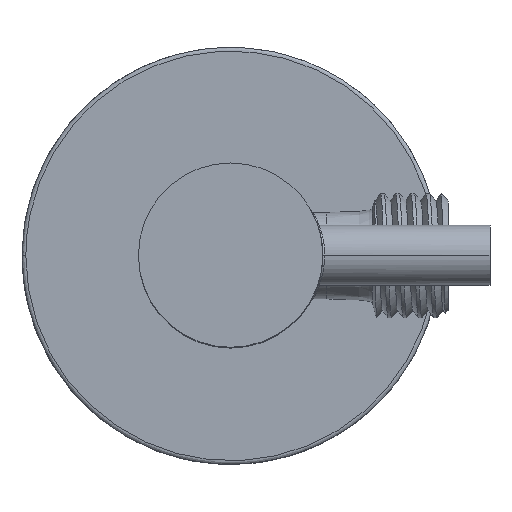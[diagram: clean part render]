
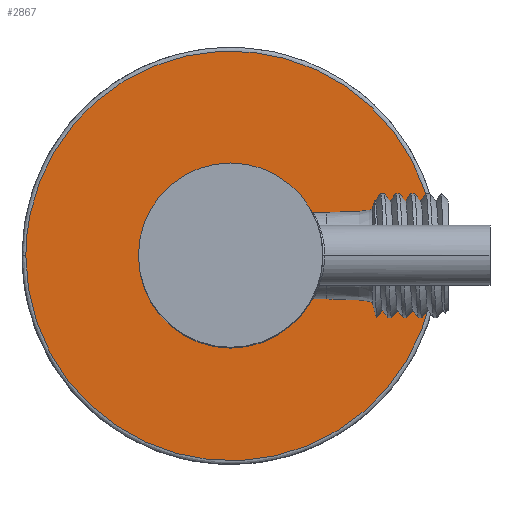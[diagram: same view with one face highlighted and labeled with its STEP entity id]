
A CAD part, top view. The second image highlights one B-rep face of the part: STEP entity #2867.
In plain terms, the highlighted planar face has unit normal (0, 0, 1).
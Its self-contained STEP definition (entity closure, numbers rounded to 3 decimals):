
#81 = AXIS2_PLACEMENT_3D ( 'NONE', #2199, #2487, #1035 ) ;
#137 = PLANE ( 'NONE',  #81 ) ;
#185 = CARTESIAN_POINT ( 'NONE',  ( -7., -26.137, 6. ) ) ;
#200 = CARTESIAN_POINT ( 'NONE',  ( -23.431, -13.532, 6. ) ) ;
#229 = CARTESIAN_POINT ( 'NONE',  ( 17.843, -20.341, 6. ) ) ;
#256 = CARTESIAN_POINT ( 'NONE',  ( 3.535, 26.826, 6. ) ) ;
#276 = ORIENTED_EDGE ( 'NONE', *, *, #2101, .T. ) ;
#417 = CARTESIAN_POINT ( 'NONE',  ( -27., 0., 6. ) ) ;
#450 = CARTESIAN_POINT ( 'NONE',  ( -13.532, -23.431, 6. ) ) ;
#467 = CARTESIAN_POINT ( 'NONE',  ( -8.701, -25.621, 6. ) ) ;
#468 = CARTESIAN_POINT ( 'NONE',  ( 26.137, 7., 6. ) ) ;
#483 = CARTESIAN_POINT ( 'NONE',  ( -26.826, -3.535, 6. ) ) ;
#485 = CARTESIAN_POINT ( 'NONE',  ( 23.431, 13.532, 6. ) ) ;
#498 = CARTESIAN_POINT ( 'NONE',  ( 20.341, -17.843, 6. ) ) ;
#499 = CARTESIAN_POINT ( 'NONE',  ( -3.535, 26.826, 6. ) ) ;
#510 = CARTESIAN_POINT ( 'NONE',  ( -16.469, -21.468, 6. ) ) ;
#535 = FACE_OUTER_BOUND ( 'NONE', #2411, .T. ) ;
#540 = CARTESIAN_POINT ( 'NONE',  ( -7., 26.137, 6. ) ) ;
#623 = B_SPLINE_CURVE_WITH_KNOTS ( 'NONE', 3,
 ( #1324, #1904, #2204, #468, #1702, #1663, #485, #797, #1101, #2260, #2861, #781, #2802, #1076, #1960, #256, #2234, #3103, #499, #540, #3700, #1404, #2533, #2560, #3087, #2273, #1999, #2522, #2846, #2244, #2817, #1947, #3655, #2510 ),
 .UNSPECIFIED., .F., .F.,
 ( 4, 2, 2, 2, 2, 2, 2, 2, 2, 2, 2, 2, 2, 2, 2, 2, 4 ),
 ( 0., 0.031, 0.063, 0.094, 0.125, 0.156, 0.188, 0.219, 0.25, 0.281, 0.312, 0.344, 0.375, 0.406, 0.438, 0.469, 0.5 ),
 .UNSPECIFIED. ) ;
#780 = CARTESIAN_POINT ( 'NONE',  ( -24.269, -11.964, 6. ) ) ;
#781 = CARTESIAN_POINT ( 'NONE',  ( 13.532, 23.431, 6. ) ) ;
#796 = CARTESIAN_POINT ( 'NONE',  ( 27., -1.768, 6. ) ) ;
#797 = CARTESIAN_POINT ( 'NONE',  ( 21.468, 16.469, 6. ) ) ;
#864 = ORIENTED_EDGE ( 'NONE', *, *, #3255, .T. ) ;
#1035 = DIRECTION ( 'NONE',  ( 1., 0., 0. ) ) ;
#1058 = CARTESIAN_POINT ( 'NONE',  ( 7., -26.137, 6. ) ) ;
#1074 = CARTESIAN_POINT ( 'NONE',  ( -26.137, -7., 6. ) ) ;
#1076 = CARTESIAN_POINT ( 'NONE',  ( 8.701, 25.621, 6. ) ) ;
#1091 = CARTESIAN_POINT ( 'NONE',  ( 1.766, -27., 6. ) ) ;
#1101 = CARTESIAN_POINT ( 'NONE',  ( 20.341, 17.843, 6. ) ) ;
#1124 = B_SPLINE_CURVE_WITH_KNOTS ( 'NONE', 3,
 ( #417, #1601, #483, #1074, #1929, #780, #200, #1387, #3361, #3051, #510, #450, #1648, #467, #185, #2203, #1662, #1091, #1675, #1058, #1630, #3064, #3654, #2231, #229, #498, #3684, #2521, #1972, #3626, #1338, #2217, #796, #3333 ),
 .UNSPECIFIED., .F., .F.,
 ( 4, 2, 2, 2, 2, 2, 2, 2, 2, 2, 2, 2, 2, 2, 2, 2, 4 ),
 ( 0.5, 0.531, 0.563, 0.594, 0.625, 0.656, 0.688, 0.719, 0.75, 0.781, 0.813, 0.844, 0.875, 0.906, 0.938, 0.969, 1. ),
 .UNSPECIFIED. ) ;
#1161 = VERTEX_POINT ( 'NONE', #1409 ) ;
#1324 = CARTESIAN_POINT ( 'NONE',  ( 27., 0., 6. ) ) ;
#1338 = CARTESIAN_POINT ( 'NONE',  ( 26.137, -7., 6. ) ) ;
#1387 = CARTESIAN_POINT ( 'NONE',  ( -21.468, -16.469, 6. ) ) ;
#1404 = CARTESIAN_POINT ( 'NONE',  ( -11.964, 24.269, 6. ) ) ;
#1409 = CARTESIAN_POINT ( 'NONE',  ( 27., 0., 6. ) ) ;
#1601 = CARTESIAN_POINT ( 'NONE',  ( -27., -1.766, 6. ) ) ;
#1630 = CARTESIAN_POINT ( 'NONE',  ( 8.7, -25.621, 6. ) ) ;
#1648 = CARTESIAN_POINT ( 'NONE',  ( -11.964, -24.269, 6. ) ) ;
#1662 = CARTESIAN_POINT ( 'NONE',  ( -1.766, -27., 6. ) ) ;
#1663 = CARTESIAN_POINT ( 'NONE',  ( 24.269, 11.964, 6. ) ) ;
#1675 = CARTESIAN_POINT ( 'NONE',  ( 3.535, -26.826, 6. ) ) ;
#1702 = CARTESIAN_POINT ( 'NONE',  ( 25.621, 8.7, 6. ) ) ;
#1817 = VERTEX_POINT ( 'NONE', #3500 ) ;
#1904 = CARTESIAN_POINT ( 'NONE',  ( 27., 1.767, 6. ) ) ;
#1929 = CARTESIAN_POINT ( 'NONE',  ( -25.621, -8.7, 6. ) ) ;
#1947 = CARTESIAN_POINT ( 'NONE',  ( -26.826, 3.535, 6. ) ) ;
#1960 = CARTESIAN_POINT ( 'NONE',  ( 7., 26.137, 6. ) ) ;
#1972 = CARTESIAN_POINT ( 'NONE',  ( 24.269, -11.964, 6. ) ) ;
#1999 = CARTESIAN_POINT ( 'NONE',  ( -21.468, 16.469, 6. ) ) ;
#2101 = EDGE_CURVE ( 'NONE', #1161, #1817, #623, .T. ) ;
#2199 = CARTESIAN_POINT ( 'NONE',  ( 0., 0., 6. ) ) ;
#2203 = CARTESIAN_POINT ( 'NONE',  ( -3.535, -26.826, 6. ) ) ;
#2204 = CARTESIAN_POINT ( 'NONE',  ( 26.826, 3.535, 6. ) ) ;
#2217 = CARTESIAN_POINT ( 'NONE',  ( 26.826, -3.535, 6. ) ) ;
#2231 = CARTESIAN_POINT ( 'NONE',  ( 16.469, -21.468, 6. ) ) ;
#2234 = CARTESIAN_POINT ( 'NONE',  ( 1.766, 27., 6. ) ) ;
#2244 = CARTESIAN_POINT ( 'NONE',  ( -25.621, 8.701, 6. ) ) ;
#2260 = CARTESIAN_POINT ( 'NONE',  ( 17.843, 20.341, 6. ) ) ;
#2273 = CARTESIAN_POINT ( 'NONE',  ( -20.341, 17.843, 6. ) ) ;
#2411 = EDGE_LOOP ( 'NONE', ( #276, #864 ) ) ;
#2487 = DIRECTION ( 'NONE',  ( 0., 0., 1. ) ) ;
#2510 = CARTESIAN_POINT ( 'NONE',  ( -27., 0., 6. ) ) ;
#2521 = CARTESIAN_POINT ( 'NONE',  ( 23.431, -13.532, 6. ) ) ;
#2522 = CARTESIAN_POINT ( 'NONE',  ( -23.431, 13.532, 6. ) ) ;
#2533 = CARTESIAN_POINT ( 'NONE',  ( -13.532, 23.431, 6. ) ) ;
#2560 = CARTESIAN_POINT ( 'NONE',  ( -16.469, 21.468, 6. ) ) ;
#2802 = CARTESIAN_POINT ( 'NONE',  ( 11.964, 24.269, 6. ) ) ;
#2817 = CARTESIAN_POINT ( 'NONE',  ( -26.137, 7., 6. ) ) ;
#2846 = CARTESIAN_POINT ( 'NONE',  ( -24.269, 11.964, 6. ) ) ;
#2861 = CARTESIAN_POINT ( 'NONE',  ( 16.469, 21.468, 6. ) ) ;
#2867 = ADVANCED_FACE ( 'NONE', ( #535 ), #137, .T. ) ;
#3051 = CARTESIAN_POINT ( 'NONE',  ( -17.843, -20.341, 6. ) ) ;
#3064 = CARTESIAN_POINT ( 'NONE',  ( 11.964, -24.269, 6. ) ) ;
#3087 = CARTESIAN_POINT ( 'NONE',  ( -17.843, 20.341, 6. ) ) ;
#3103 = CARTESIAN_POINT ( 'NONE',  ( -1.766, 27., 6. ) ) ;
#3255 = EDGE_CURVE ( 'NONE', #1817, #1161, #1124, .T. ) ;
#3333 = CARTESIAN_POINT ( 'NONE',  ( 27., 0., 6. ) ) ;
#3361 = CARTESIAN_POINT ( 'NONE',  ( -20.341, -17.843, 6. ) ) ;
#3500 = CARTESIAN_POINT ( 'NONE',  ( -27., 0., 6. ) ) ;
#3626 = CARTESIAN_POINT ( 'NONE',  ( 25.621, -8.701, 6. ) ) ;
#3654 = CARTESIAN_POINT ( 'NONE',  ( 13.532, -23.431, 6. ) ) ;
#3655 = CARTESIAN_POINT ( 'NONE',  ( -27., 1.766, 6. ) ) ;
#3684 = CARTESIAN_POINT ( 'NONE',  ( 21.468, -16.469, 6. ) ) ;
#3700 = CARTESIAN_POINT ( 'NONE',  ( -8.7, 25.621, 6. ) ) ;
